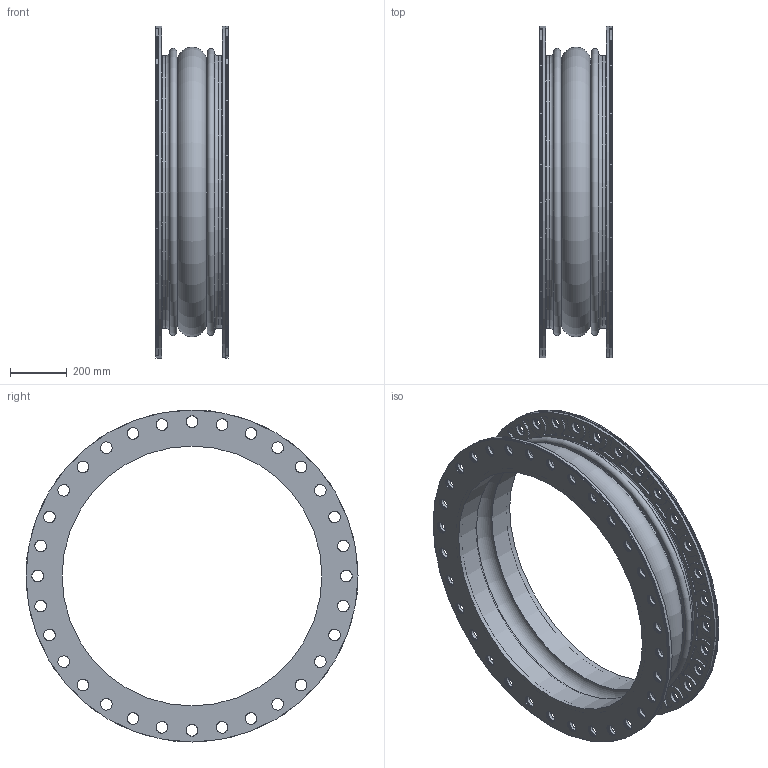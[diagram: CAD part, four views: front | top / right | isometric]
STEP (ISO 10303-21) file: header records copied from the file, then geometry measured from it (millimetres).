
FILE_DESCRIPTION((''),'2;1');
FILE_NAME('N:\StockJoints-ADSK, IGES, STEP, PNG\STEP\451 36x10.stp','2013-05-23T14:47:19',('mquog'),(''),'Autodesk Inventor 2011','Autodesk Inventor 2011','');
FILE_SCHEMA(('AUTOMOTIVE_DESIGN { 1 0 10303 214 1 1 1 1 }'));
Length unit declared in the file: inch
Products named in the file (3): 451 36x10; Style451 36x10; 36DI450BUR150
Assembly tree (3 placements, depth 2):
  451 36x10
    Style451 36x10
    36DI450BUR150  x2
Bounding box: 254 x 1168.4 x 1168.4 mm (x, y, z)
Volume: 31046218.6 mm3; surface area: 24882304.9 mm2
Topology: 14 solids, 14 shells, 1364 faces, 3712 edges, 2452 vertices
Faces by surface type: cylinder 1208, plane 104, torus 52
Full cylindrical faces by diameter (mm): 41.275 x512, 914.4 x2, 920.75 x4, 927.1 x8, 929.132 x4, 931.164 x4, 933.196 x4, 935.228 x4, 938.403 x2, 941.388 x2, 946.15 x2, 960.438 x2, 1165.225 x14, 1168.4 x4
Entity records: 30803 total; most frequent: DIRECTION 5744, CARTESIAN_POINT 4769, ORIENTED_EDGE 4114, AXIS2_PLACEMENT_3D 2712, EDGE_LOOP 2578, EDGE_CURVE 2057, VERTEX_POINT 1737, CIRCLE 1737
